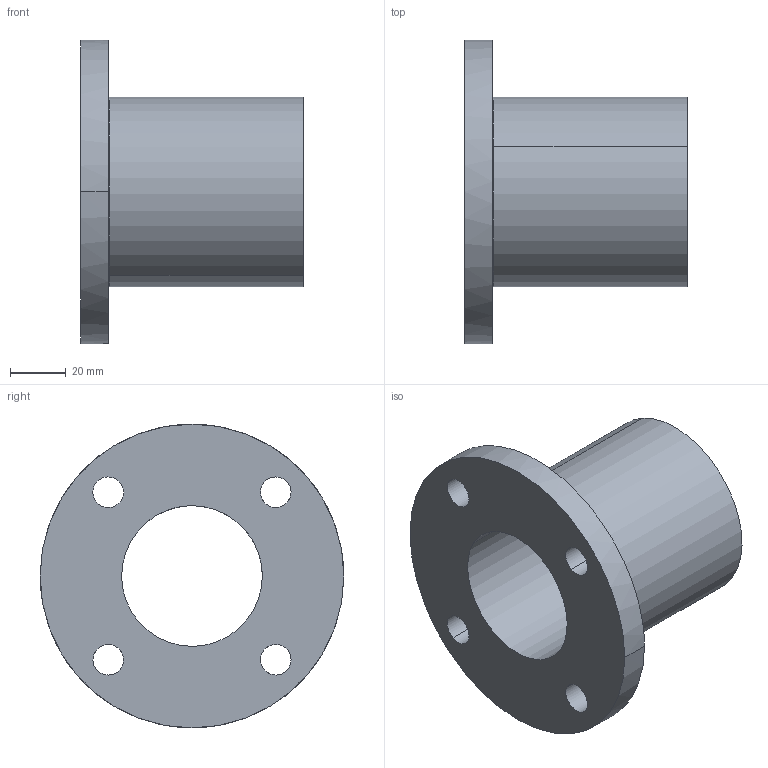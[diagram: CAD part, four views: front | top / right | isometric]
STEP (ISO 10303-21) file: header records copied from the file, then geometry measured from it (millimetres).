
FILE_DESCRIPTION(('CATIA V5 STEP Exchange'),'2;1');
FILE_NAME('C:\Users\aa\Documents\이댈\TM\TTM\TTM50.stp','2020-03-24T04:52:54+00:00',('none'),('none'),'CATIA Version 5 Release 20 SP 7 (IN-10)','CATIA V5 STEP AP203','none');
FILE_SCHEMA(('CONFIG_CONTROL_DESIGN'));
Length unit declared in the file: millimetre
Products named in the file (1): TTM50
Bounding box: 80 x 109 x 109 mm (x, y, z)
Volume: 183504.2 mm3; surface area: 46303.4 mm2
Topology: 1 solids, 1 shells, 19 faces, 46 edges, 30 vertices
Faces by surface type: cylinder 14, plane 3, torus 2
Entity records: 810 total; most frequent: CARTESIAN_POINT 322, ORIENTED_EDGE 92, DIRECTION 73, EDGE_CURVE 46, AXIS2_PLACEMENT_3D 41, EDGE_LOOP 30, VERTEX_POINT 30, CIRCLE 21
